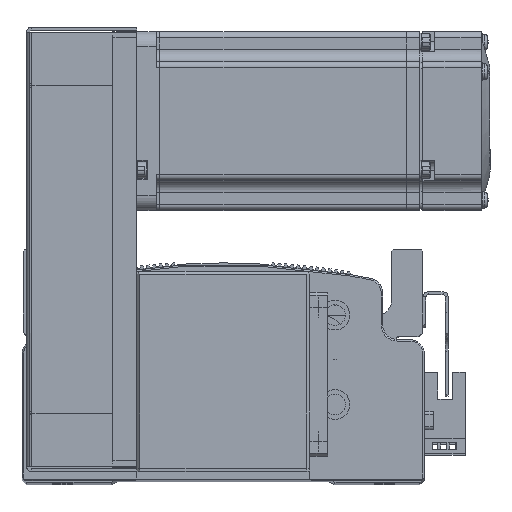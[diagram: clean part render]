
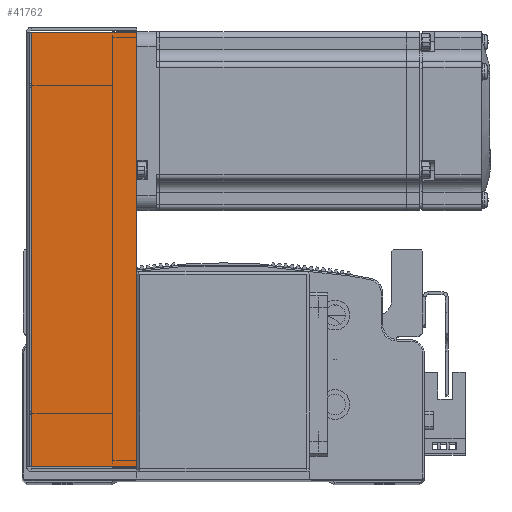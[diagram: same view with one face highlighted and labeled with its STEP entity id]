
A CAD part, top view. The second image highlights one B-rep face of the part: STEP entity #41762.
In plain terms, the highlighted planar face has unit normal (0, 0, 1).
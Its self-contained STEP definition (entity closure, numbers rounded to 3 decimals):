
#743 = LINE ( 'NONE', #44034, #825 ) ;
#825 = VECTOR ( 'NONE', #44042, 1000. ) ;
#1044 = LINE ( 'NONE', #43759, #1083 ) ;
#1083 = VECTOR ( 'NONE', #43763, 1000. ) ;
#1092 = LINE ( 'NONE', #43886, #1141 ) ;
#1093 = LINE ( 'NONE', #43952, #1106 ) ;
#1106 = VECTOR ( 'NONE', #43963, 1000. ) ;
#1141 = VECTOR ( 'NONE', #43889, 1000. ) ;
#1687 = EDGE_CURVE ( 'NONE', #54145, #54026, #1044, .T. ) ;
#1729 = EDGE_CURVE ( 'NONE', #54049, #54095, #1092, .T. ) ;
#1732 = EDGE_CURVE ( 'NONE', #54026, #54095, #1093, .T. ) ;
#1770 = EDGE_CURVE ( 'NONE', #54145, #54049, #743, .T. ) ;
#21883 = FACE_OUTER_BOUND ( 'NONE', #81028, .T. ) ;
#25080 = PLANE ( 'NONE',  #25505 ) ;
#25098 = DIRECTION ( 'NONE',  ( -1., 0., 0. ) ) ;
#25099 = DIRECTION ( 'NONE',  ( 0., 0., -1. ) ) ;
#25108 = CARTESIAN_POINT ( 'NONE',  ( 0., 0., 34.5 ) ) ;
#25505 = AXIS2_PLACEMENT_3D ( 'NONE', #25108, #25099, #25098 ) ;
#41762 = ADVANCED_FACE ( 'NONE', ( #21883 ), #25080, .F. ) ;
#43759 = CARTESIAN_POINT ( 'NONE',  ( -74.5, 0.737, 34.5 ) ) ;
#43763 = DIRECTION ( 'NONE',  ( -1., 0., 0. ) ) ;
#43886 = CARTESIAN_POINT ( 'NONE',  ( 0., 36., 34.5 ) ) ;
#43889 = DIRECTION ( 'NONE',  ( -1., 0., 0. ) ) ;
#43952 = CARTESIAN_POINT ( 'NONE',  ( -72.793, 0., 34.5 ) ) ;
#43963 = DIRECTION ( 'NONE',  ( 0., 1., 0. ) ) ;
#44034 = CARTESIAN_POINT ( 'NONE',  ( 72.793, 0., 34.5 ) ) ;
#44042 = DIRECTION ( 'NONE',  ( 0., 1., 0. ) ) ;
#52162 = CARTESIAN_POINT ( 'NONE',  ( -72.793, 0.737, 34.5 ) ) ;
#52203 = CARTESIAN_POINT ( 'NONE',  ( 72.793, 36., 34.5 ) ) ;
#52287 = CARTESIAN_POINT ( 'NONE',  ( -72.793, 36., 34.5 ) ) ;
#52372 = CARTESIAN_POINT ( 'NONE',  ( 72.793, 0.737, 34.5 ) ) ;
#53206 = ORIENTED_EDGE ( 'NONE', *, *, #1687, .F. ) ;
#53239 = ORIENTED_EDGE ( 'NONE', *, *, #1770, .T. ) ;
#53310 = ORIENTED_EDGE ( 'NONE', *, *, #1729, .T. ) ;
#53313 = ORIENTED_EDGE ( 'NONE', *, *, #1732, .F. ) ;
#54026 = VERTEX_POINT ( 'NONE', #52162 ) ;
#54049 = VERTEX_POINT ( 'NONE', #52203 ) ;
#54095 = VERTEX_POINT ( 'NONE', #52287 ) ;
#54145 = VERTEX_POINT ( 'NONE', #52372 ) ;
#81028 = EDGE_LOOP ( 'NONE', ( #53206, #53239, #53310, #53313 ) ) ;
